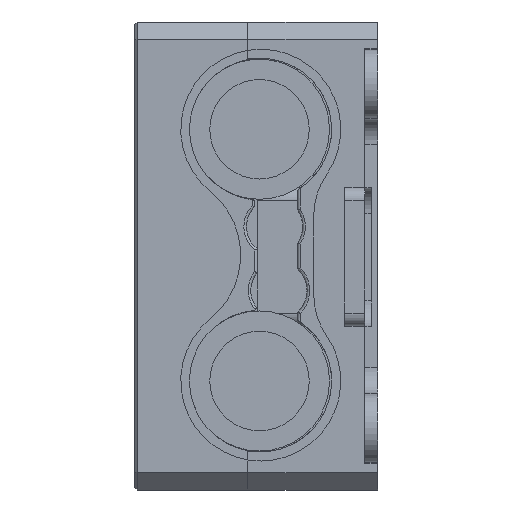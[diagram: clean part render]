
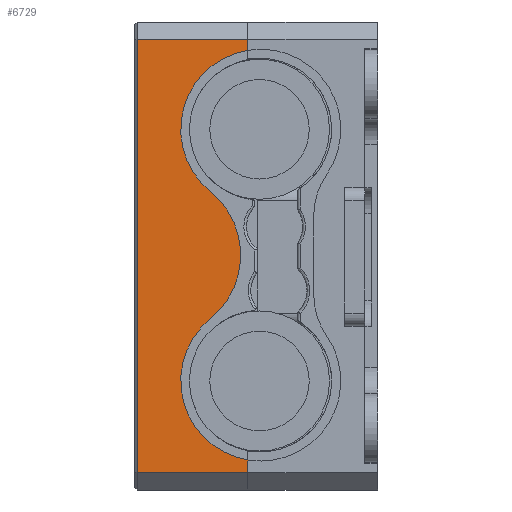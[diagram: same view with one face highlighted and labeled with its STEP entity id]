
A CAD part, left-side view. The second image highlights one B-rep face of the part: STEP entity #6729.
In plain terms, the highlighted planar face has unit normal (-1, 0, 0) as drawn and (1, 0, 0) by its records, which use the part's own axes.
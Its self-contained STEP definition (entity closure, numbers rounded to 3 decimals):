
#477=FACE_OUTER_BOUND('',#877,.T.);
#877=EDGE_LOOP('',(#4852,#4853,#4854,#4855,#4856,#4857,#4858,#4859));
#1288=LINE('',#10085,#1935);
#1311=LINE('',#10130,#1958);
#1383=LINE('',#10440,#2030);
#1392=LINE('',#10463,#2039);
#1393=LINE('',#10470,#2040);
#1935=VECTOR('',#7951,10.);
#1958=VECTOR('',#7990,10.);
#2030=VECTOR('',#8256,10.);
#2039=VECTOR('',#8273,10.);
#2040=VECTOR('',#8282,10.);
#2592=CIRCLE('',#7271,9.25);
#2593=CIRCLE('',#7272,9.501);
#2594=CIRCLE('',#7273,9.25);
#2876=VERTEX_POINT('',#10077);
#2878=VERTEX_POINT('',#10083);
#2892=VERTEX_POINT('',#10128);
#2972=VERTEX_POINT('',#10437);
#2973=VERTEX_POINT('',#10439);
#2983=VERTEX_POINT('',#10461);
#2984=VERTEX_POINT('',#10465);
#2985=VERTEX_POINT('',#10467);
#3542=EDGE_CURVE('',#2878,#2876,#1288,.T.);
#3565=EDGE_CURVE('',#2892,#2878,#1311,.T.);
#3689=EDGE_CURVE('',#2973,#2972,#1383,.T.);
#3702=EDGE_CURVE('',#2892,#2983,#1392,.T.);
#3703=EDGE_CURVE('',#2983,#2984,#2592,.T.);
#3704=EDGE_CURVE('',#2984,#2985,#2593,.T.);
#3705=EDGE_CURVE('',#2985,#2973,#2594,.T.);
#3706=EDGE_CURVE('',#2876,#2972,#1393,.T.);
#4852=ORIENTED_EDGE('',*,*,#3542,.F.);
#4853=ORIENTED_EDGE('',*,*,#3565,.F.);
#4854=ORIENTED_EDGE('',*,*,#3702,.T.);
#4855=ORIENTED_EDGE('',*,*,#3703,.T.);
#4856=ORIENTED_EDGE('',*,*,#3704,.T.);
#4857=ORIENTED_EDGE('',*,*,#3705,.T.);
#4858=ORIENTED_EDGE('',*,*,#3689,.T.);
#4859=ORIENTED_EDGE('',*,*,#3706,.F.);
#6498=PLANE('',#7270);
#6729=ADVANCED_FACE('',(#477),#6498,.T.);
#7270=AXIS2_PLACEMENT_3D('',#10464,#8274,#8275);
#7271=AXIS2_PLACEMENT_3D('',#10466,#8276,#8277);
#7272=AXIS2_PLACEMENT_3D('',#10468,#8278,#8279);
#7273=AXIS2_PLACEMENT_3D('',#10469,#8280,#8281);
#7951=DIRECTION('',(0.,0.,1.));
#7990=DIRECTION('',(0.,-1.,0.));
#8256=DIRECTION('',(0.,0.,1.));
#8273=DIRECTION('',(0.,0.,1.));
#8274=DIRECTION('center_axis',(1.,0.,0.));
#8275=DIRECTION('ref_axis',(0.,0.,-1.));
#8276=DIRECTION('center_axis',(-1.,0.,0.));
#8277=DIRECTION('ref_axis',(0.,0.,1.));
#8278=DIRECTION('center_axis',(1.,0.,0.));
#8279=DIRECTION('ref_axis',(0.,0.631,-0.776));
#8280=DIRECTION('center_axis',(-1.,0.,0.));
#8281=DIRECTION('ref_axis',(0.,0.,1.));
#8282=DIRECTION('',(0.,1.,0.));
#10077=CARTESIAN_POINT('',(46.35,-11.65,25.05));
#10083=CARTESIAN_POINT('',(46.35,-11.65,-25.05));
#10085=CARTESIAN_POINT('',(46.35,-11.65,-24.475));
#10128=CARTESIAN_POINT('',(46.35,1.15,-25.05));
#10130=CARTESIAN_POINT('',(46.35,-4.525,-25.05));
#10437=CARTESIAN_POINT('',(46.35,1.15,25.05));
#10439=CARTESIAN_POINT('',(46.35,1.15,23.778));
#10440=CARTESIAN_POINT('',(46.35,1.15,-1.555));
#10461=CARTESIAN_POINT('',(46.35,1.15,-23.578));
#10463=CARTESIAN_POINT('',(46.35,1.15,-24.295));
#10464=CARTESIAN_POINT('Origin',(46.35,-0.45,-25.95));
#10465=CARTESIAN_POINT('',(46.35,-3.185,-7.272));
#10466=CARTESIAN_POINT('Origin',(46.35,2.65,-14.45));
#10467=CARTESIAN_POINT('',(46.35,-3.185,7.472));
#10468=CARTESIAN_POINT('Origin',(46.35,-9.177,0.1));
#10469=CARTESIAN_POINT('Origin',(46.35,2.65,14.65));
#10470=CARTESIAN_POINT('',(46.35,-4.525,25.05));
